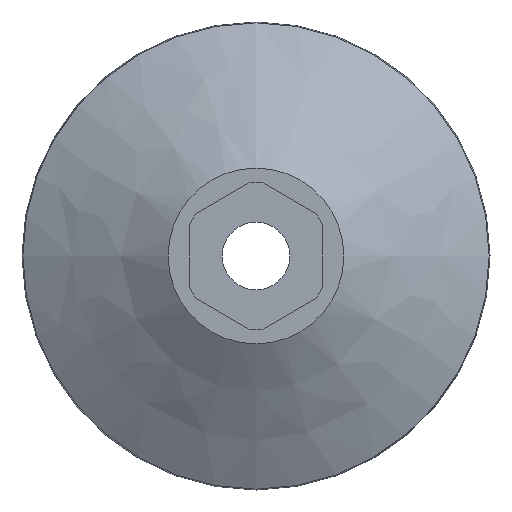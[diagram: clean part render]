
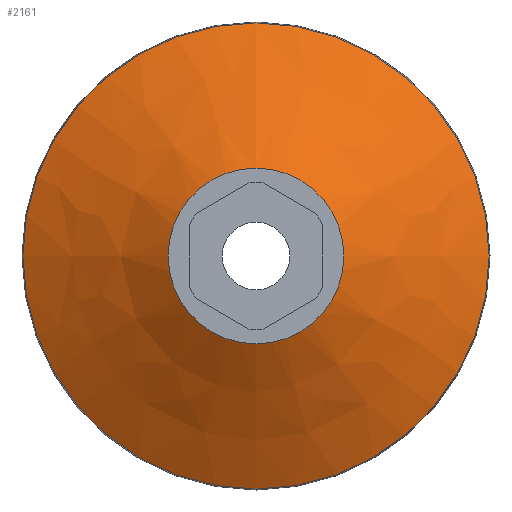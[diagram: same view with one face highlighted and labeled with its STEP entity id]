
A CAD part, front view. The second image highlights one B-rep face of the part: STEP entity #2161.
In plain terms, the highlighted free-form (B-spline) face has degree [3, 3] with [4, 7] control points.
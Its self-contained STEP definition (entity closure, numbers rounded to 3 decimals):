
#45 = CARTESIAN_POINT ( 'NONE',  ( 336.114, 96.553, 30.522 ) ) ;
#55 = CARTESIAN_POINT ( 'NONE',  ( 197.569, 100.771, 38.751 ) ) ;
#65 = CARTESIAN_POINT ( 'NONE',  ( 275.071, 100.771, 38.751 ) ) ;
#139 = EDGE_CURVE ( 'NONE', #556, #556, #282, .T. ) ;
#231 = CARTESIAN_POINT ( 'NONE',  ( 352.573, 100.771, -38.751 ) ) ;
#240 = CARTESIAN_POINT ( 'NONE',  ( 275.071, 87.148, 14.6 ) ) ;
#282 = CIRCLE ( 'NONE', #2150, 14.6 ) ;
#375 = CARTESIAN_POINT ( 'NONE',  ( 352.573, 100.771, 38.751 ) ) ;
#399 = CARTESIAN_POINT ( 'NONE',  ( 214.028, 96.553, -30.522 ) ) ;
#409 = CARTESIAN_POINT ( 'NONE',  ( 320.005, 92.01, -22.467 ) ) ;
#419 = CARTESIAN_POINT ( 'NONE',  ( 275.071, 87.148, 14.6 ) ) ;
#556 = VERTEX_POINT ( 'NONE', #419 ) ;
#587 = EDGE_CURVE ( 'NONE', #907, #907, #2040, .T. ) ;
#594 = ORIENTED_EDGE ( 'NONE', *, *, #587, .F. ) ;
#700 = DIRECTION ( 'NONE',  ( 0., 1., 0. ) ) ;
#720 = CARTESIAN_POINT ( 'NONE',  ( 197.569, 100.771, -38.751 ) ) ;
#729 = FACE_OUTER_BOUND ( 'NONE', #746, .T. ) ;
#746 = EDGE_LOOP ( 'NONE', ( #594 ) ) ;
#752 = CARTESIAN_POINT ( 'NONE',  ( 304.271, 87.148, 14.6 ) ) ;
#898 = CARTESIAN_POINT ( 'NONE',  ( 214.028, 96.553, 30.522 ) ) ;
#907 = VERTEX_POINT ( 'NONE', #65 ) ;
#917 = CARTESIAN_POINT ( 'NONE',  ( 320.005, 92.01, 22.467 ) ) ;
#931 = ORIENTED_EDGE ( 'NONE', *, *, #139, .T. ) ;
#1047 = CARTESIAN_POINT ( 'NONE',  ( 230.137, 92.01, -22.467 ) ) ;
#1058 = CARTESIAN_POINT ( 'NONE',  ( 275.071, 92.01, -22.467 ) ) ;
#1073 = CARTESIAN_POINT ( 'NONE',  ( 275.071, 100.771, 38.751 ) ) ;
#1083 = CARTESIAN_POINT ( 'NONE',  ( 275.071, 96.553, 30.522 ) ) ;
#1091 = CARTESIAN_POINT ( 'NONE',  ( 275.071, 87.148, 0. ) ) ;
#1187 = DIRECTION ( 'NONE',  ( 0., 0., 1. ) ) ;
#1225 = CARTESIAN_POINT ( 'NONE',  ( 275.071, 92.01, 22.467 ) ) ;
#1237 =( BOUNDED_SURFACE ( )  B_SPLINE_SURFACE ( 3, 3, ( 
 ( #1073, #375, #231, #1250, #720, #55, #1565 ),
 ( #2059, #45, #1396, #1554, #399, #898, #1083 ),
 ( #1225, #917, #409, #1058, #1047, #1744, #2069 ),
 ( #240, #752, #1586, #2094, #1924, #1408, #2083 ) ),
 .UNSPECIFIED., .F., .T., .T. ) 
 B_SPLINE_SURFACE_WITH_KNOTS ( ( 4, 4 ),
 ( 4, 3, 4 ),
 ( 0., 1. ),
 ( 0., 0.5, 1. ),
 .UNSPECIFIED. ) 
 GEOMETRIC_REPRESENTATION_ITEM ( )  RATIONAL_B_SPLINE_SURFACE ( (
 ( 1., 0.333, 0.333, 1., 0.333, 0.333, 1.),
 ( 0.999, 0.333, 0.333, 0.999, 0.333, 0.333, 0.999),
 ( 0.999, 0.333, 0.333, 0.999, 0.333, 0.333, 0.999),
 ( 1., 0.333, 0.333, 1., 0.333, 0.333, 1.) ) ) 
 REPRESENTATION_ITEM ( '' )  SURFACE ( )  );
#1250 = CARTESIAN_POINT ( 'NONE',  ( 275.071, 100.771, -38.751 ) ) ;
#1259 = DIRECTION ( 'NONE',  ( 0., 1., 0. ) ) ;
#1396 = CARTESIAN_POINT ( 'NONE',  ( 336.114, 96.553, -30.522 ) ) ;
#1407 = AXIS2_PLACEMENT_3D ( 'NONE', #2070, #700, #1187 ) ;
#1408 = CARTESIAN_POINT ( 'NONE',  ( 245.871, 87.148, 14.6 ) ) ;
#1554 = CARTESIAN_POINT ( 'NONE',  ( 275.071, 96.553, -30.522 ) ) ;
#1565 = CARTESIAN_POINT ( 'NONE',  ( 275.071, 100.771, 38.751 ) ) ;
#1586 = CARTESIAN_POINT ( 'NONE',  ( 304.271, 87.148, -14.6 ) ) ;
#1636 = EDGE_LOOP ( 'NONE', ( #931 ) ) ;
#1744 = CARTESIAN_POINT ( 'NONE',  ( 230.137, 92.01, 22.467 ) ) ;
#1752 = DIRECTION ( 'NONE',  ( 0., 0., 1. ) ) ;
#1901 = FACE_OUTER_BOUND ( 'NONE', #1636, .T. ) ;
#1924 = CARTESIAN_POINT ( 'NONE',  ( 245.871, 87.148, -14.6 ) ) ;
#2040 = CIRCLE ( 'NONE', #1407, 38.751 ) ;
#2059 = CARTESIAN_POINT ( 'NONE',  ( 275.071, 96.553, 30.522 ) ) ;
#2069 = CARTESIAN_POINT ( 'NONE',  ( 275.071, 92.01, 22.467 ) ) ;
#2070 = CARTESIAN_POINT ( 'NONE',  ( 275.071, 100.771, 0. ) ) ;
#2083 = CARTESIAN_POINT ( 'NONE',  ( 275.071, 87.148, 14.6 ) ) ;
#2094 = CARTESIAN_POINT ( 'NONE',  ( 275.071, 87.148, -14.6 ) ) ;
#2150 = AXIS2_PLACEMENT_3D ( 'NONE', #1091, #1259, #1752 ) ;
#2161 = ADVANCED_FACE ( 'NONE', ( #729, #1901 ), #1237, .T. ) ;
